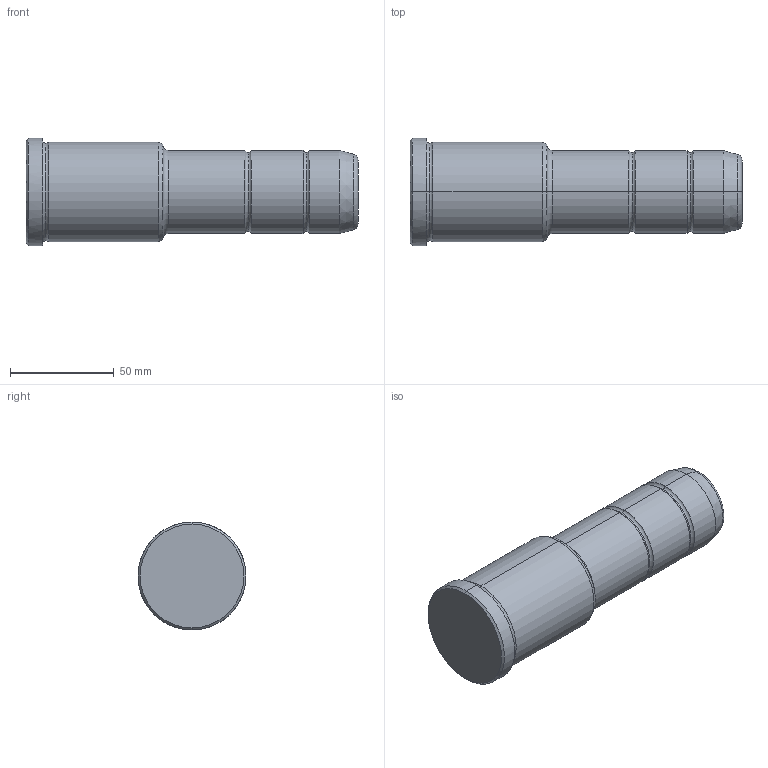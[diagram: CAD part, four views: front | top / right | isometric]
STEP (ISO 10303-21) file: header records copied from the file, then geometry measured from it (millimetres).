
FILE_DESCRIPTION(('CATIA V5 STEP Exchange'),'2;1');
FILE_NAME('C:\Users\Utente\Desktop\IO LAVORO\3D X SITO CF\X SITO\PLASTICA\351\351-40X66X160.stp','2021-10-28T18:27:27+00:00',('none'),('none'),'CATIA Version 5 Release 20 GA (IN-10)','CATIA V5 STEP AP203','none');
FILE_SCHEMA(('CONFIG_CONTROL_DESIGN'));
Length unit declared in the file: millimetre
Products named in the file (1): 351-40X66X160
Bounding box: 160 x 52 x 52 mm (x, y, z)
Volume: 237884.1 mm3; surface area: 25560.8 mm2
Topology: 1 solids, 1 shells, 36 faces, 102 edges, 70 vertices
Faces by surface type: torus 16, cylinder 10, cone 6, plane 4
Entity records: 1292 total; most frequent: CARTESIAN_POINT 321, ORIENTED_EDGE 204, DIRECTION 166, AXIS2_PLACEMENT_3D 115, EDGE_CURVE 102, CIRCLE 78, VERTEX_POINT 70, EDGE_LOOP 38
